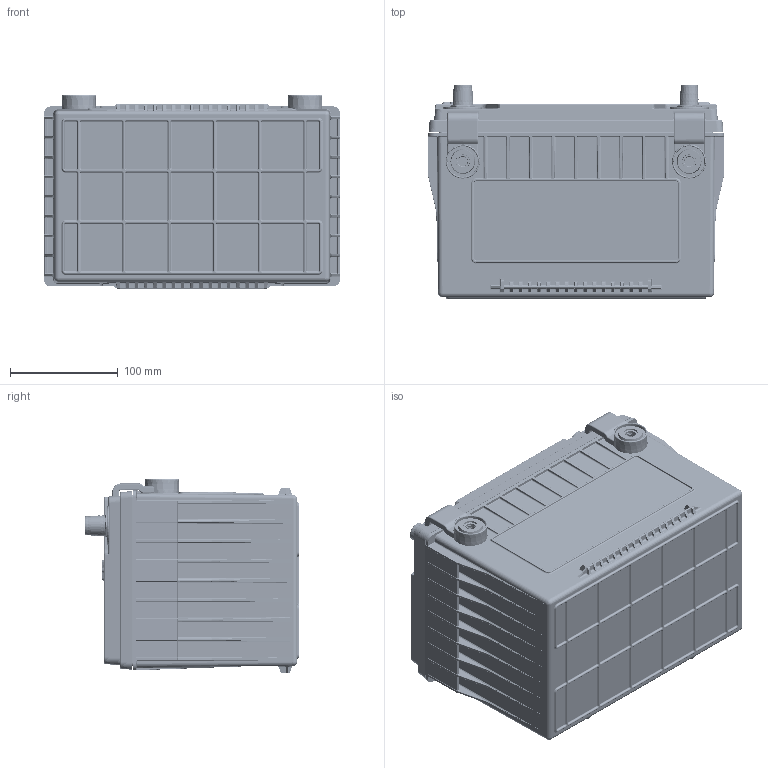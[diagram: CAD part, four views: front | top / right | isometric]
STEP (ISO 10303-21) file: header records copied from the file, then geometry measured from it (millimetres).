
FILE_DESCRIPTION (( 'STEP AP203' ), '1' );
FILE_NAME ('ODX-AGM3478.STEP', '2024-04-11T15:05:07', ( '' ), ( '' ), 'SwSTEP 2.0', 'SolidWorks 2022', '' );
FILE_SCHEMA (( 'CONFIG_CONTROL_DESIGN' ));
Products named in the file (1): ODX-AGM3478
Bounding box: 275.53 x 198.5 x 179.98 mm (x, y, z)
Volume: 1330764.8 mm3; surface area: 1064986.6 mm2
Topology: 25 solids, 25 shells, 8462 faces, 21042 edges, 12430 vertices
Faces by surface type: cylinder 3228, plane 2620, bspline 1510, torus 463, sphere 385, cone 256
Full cylindrical faces by diameter (mm): 3.175 x32, 3.81 x1, 6.35 x2, 7.62 x1, 8.001 x6, 9.5 x2, 10.8 x2, 10.922 x4, 12 x36, 15.875 x4, 18.798 x2, 20.218 x2, 24.282 x4, 28.448 x2, 31.344 x2, 31.648 x4, 35.941 x2
Entity records: 294230 total; most frequent: CARTESIAN_POINT 114725, ORIENTED_EDGE 40346, DIRECTION 34317, EDGE_CURVE 20173, AXIS2_PLACEMENT_3D 12291, VERTEX_POINT 12200, VECTOR 9735, LINE 9735
